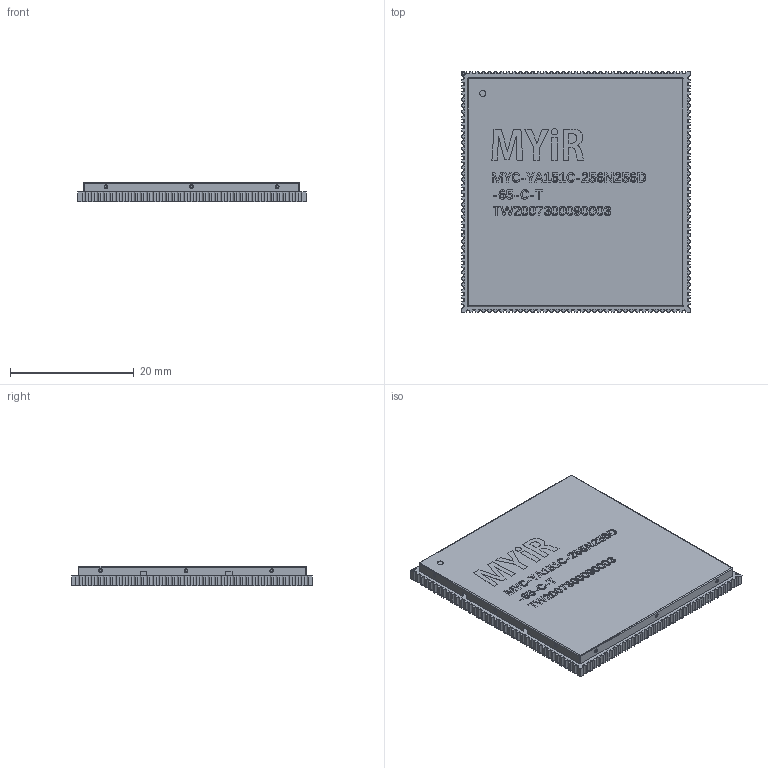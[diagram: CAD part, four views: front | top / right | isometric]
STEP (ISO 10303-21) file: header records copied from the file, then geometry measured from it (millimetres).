
FILE_DESCRIPTION (( 'STEP AP214' ), '1' );
FILE_NAME ('MYC-YA151C-0424.STEP', '2022-04-24T06:38:48', ( '' ), ( '' ), 'SwSTEP 2.0', 'SolidWorks 2022', '' );
FILE_SCHEMA (( 'AUTOMOTIVE_DESIGN' ));
Length unit declared in the file: millimetre
Products named in the file (31): SMD40.stp; WFQFN44-EPAD.stp; ID-BOARD.stp; OSCCC320X250X80L90X100.stp; 3215.stp; SOT-23.stp; SHIELD_SEG_37X39.stp; COMPONENTS.stp; shield-myc-ya157c-end.stp; BGA153_D3.stp; TEST0_6-SMD.stp; LED0603.stp; C0402.stp; SMD40_SQ.stp; TEST_020.stp; MYC-YA151C-0424.stp; myc-ya151c.stp; Solid.stp; MYC-YA151C-0424; TEST0_8-SMD.stp; SOT-23-3.stp; TEST0_8smd.stp; R0402.stp; MYC-37X39.stp; L2X2_5.stp; TSOP48.stp; C0603.stp; OS3225.stp; TFBGA361_12X12.stp; FBGA96.stp; SOT23-5.stp
Assembly tree (161 placements, depth 5):
  MYC-YA151C-0424
    MYC-YA151C-0424.stp
      COMPONENTS.stp
        SHIELD_SEG_37X39.stp
          shield-myc-ya157c-end.stp
        OS3225.stp
          OSCCC320X250X80L90X100.stp
        TEST0_6-SMD.stp
          TEST0_8smd.stp
        MYC-37X39.stp
          myc-ya151c.stp
        SMD40_SQ.stp
          TEST_020.stp
        SMD40.stp  x12
          TEST_020.stp
        ID-BOARD.stp
          TEST_020.stp
        SOT-23.stp
          SOT-23-3.stp
        3215.stp
          Solid.stp
        TEST0_8-SMD.stp  x6
          TEST0_8smd.stp
        WFQFN44-EPAD.stp
        C0402.stp  x64
        R0402.stp  x27
        LED0603.stp
        SOT23-5.stp
        C0603.stp  x20
        TFBGA361_12X12.stp
        BGA153_D3.stp
        TSOP48.stp
        FBGA96.stp
        L2X2_5.stp  x5
Bounding box: 37 x 39 x 3.22 mm (x, y, z)
Volume: 2515.5 mm3; surface area: 9129 mm2
Topology: 33 solids, 156 shells, 3240 faces, 8193 edges, 5230 vertices
Faces by surface type: plane 2580, bspline 336, cylinder 278, torus 38, sphere 8
Entity records: 109296 total; most frequent: CARTESIAN_POINT 41598, ORIENTED_EDGE 13224, DIRECTION 9815, EDGE_CURVE 6623, VERTEX_POINT 4258, LINE 3993, VECTOR 3993, AXIS2_PLACEMENT_3D 2911
